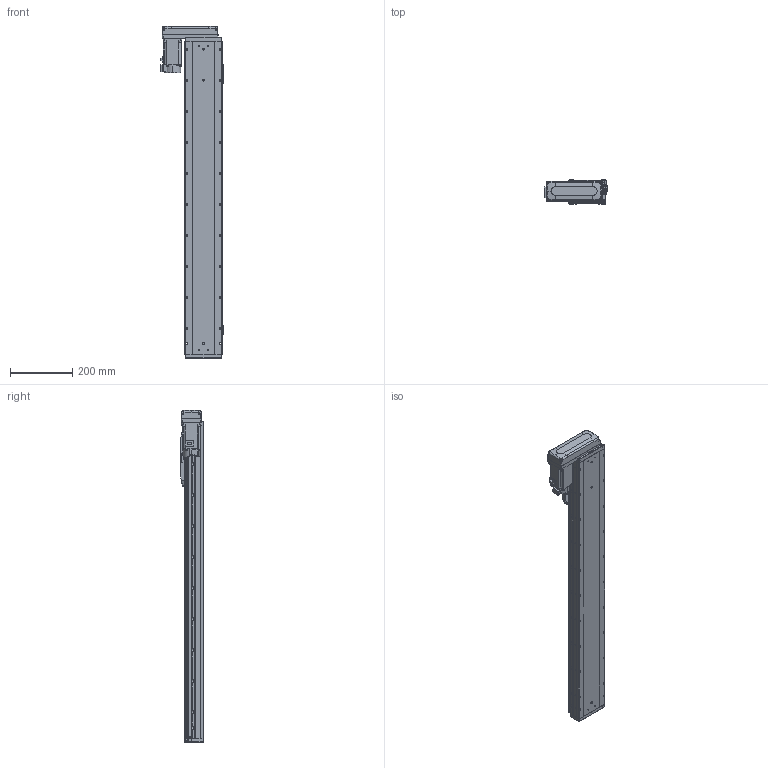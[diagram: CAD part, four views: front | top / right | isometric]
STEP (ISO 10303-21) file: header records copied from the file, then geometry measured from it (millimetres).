
FILE_DESCRIPTION (( 'STEP AP203' ), '1' );
FILE_NAME ('GTH12-800-BR-M40-C4.step', '2025-07-16T03:45:21', ( '' ), ( '' ), 'SwSTEP 2.0', 'SolidWorks 2023', '' );
FILE_SCHEMA (( 'CONFIG_CONTROL_DESIGN' ));
Length unit declared in the file: millimetre
Products named in the file (18): BTH-M3X5X6; GBT 70.1-M5×16; GTH50-023; hg-kn43j_-s100_; GTH50-024; GTH120-013; GTH80-028; GBT 70.1-M3×6; GTH80-022; GTH12-800-BR-M40-C4; GTH120-001_800; GTH120-003; GTH120-004; GBT96.1-2002 3×0.8; GTH120-027-1_GTH120-027-2; GTH120-006; CTHA86-033_M40B; GBT 70.3-M3×8
Assembly tree (59 placements, depth 2):
  GTH12-800-BR-M40-C4
    GTH120-001_800
    GTH120-003
    GTH120-006
    GTH120-004
    GTH120-013
    GBT 70.1-M3×6  x14
    GBT 70.1-M5×16  x10
    GBT 70.3-M3×8  x4
    GTH80-022
    GTH80-028  x2
    GTH50-023  x3
    GTH50-024  x3
    GBT96.1-2002 3×0.8  x6
    BTH-M3X5X6  x8
    hg-kn43j_-s100_
    CTHA86-033_M40B
    GTH120-027-1_GTH120-027-2
Bounding box: 203.5 x 76 x 1070.5 mm (x, y, z)
Volume: 7830506.4 mm3; surface area: 700746.3 mm2
Topology: 61 solids, 61 shells, 2499 faces, 5844 edges, 3587 vertices
Faces by surface type: plane 1280, cylinder 731, cone 300, torus 174, sphere 8, bspline 6
Entity records: 47314 total; most frequent: CARTESIAN_POINT 8016, DIRECTION 7852, ORIENTED_EDGE 7298, EDGE_CURVE 3649, AXIS2_PLACEMENT_3D 2744, VECTOR 2364, LINE 2364, VERTEX_POINT 2308
